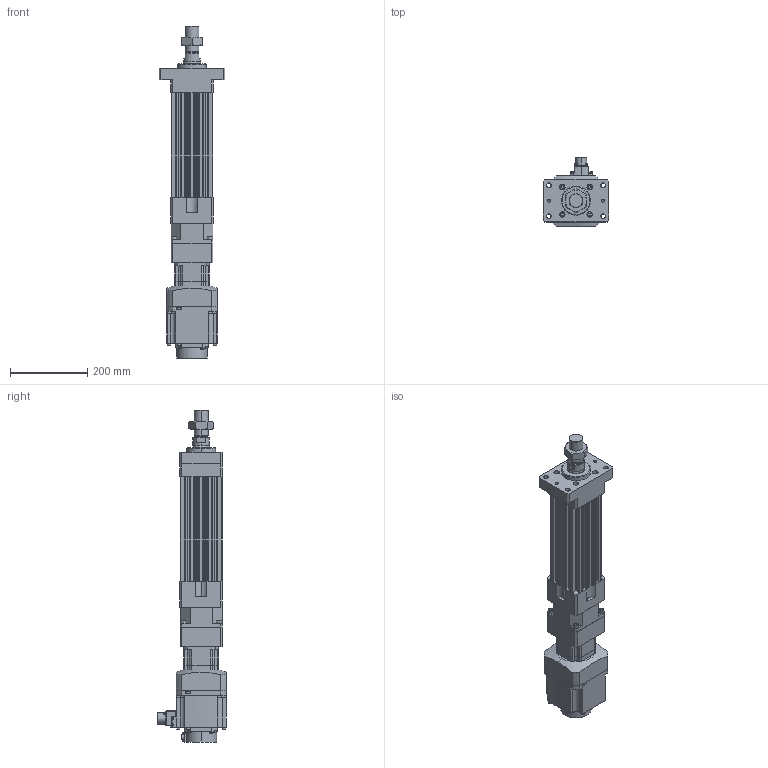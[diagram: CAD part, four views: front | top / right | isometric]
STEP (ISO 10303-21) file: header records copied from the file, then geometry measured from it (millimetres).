
FILE_DESCRIPTION (( 'STEP AP203' ), '1' );
FILE_NAME ('HES110NS(HS)-S100-W010G00-M-FM.STEP', '2023-01-27T07:05:51', ( 'tms' ), ( '' ), 'SwSTEP 2.0', 'SolidWorks 2013', '' );
FILE_SCHEMA (( 'CONFIG_CONTROL_DESIGN' ));
Length unit declared in the file: millimetre
Products named in the file (8): HG-SR102; M36X1.5P; HES110-S100-G090-FM; P0401301004; AB0901; HES110 ROD M ST100; HES110NS(HS)-S100-W010G00-M-FM; AB090-003[HG-SR102B]
Assembly tree (7 placements, depth 3):
  HES110NS(HS)-S100-W010G00-M-FM
    HES110-S100-G090-FM
    HES110 ROD M ST100
    M36X1.5P
    AB090-003[HG-SR102B]
      AB0901
      P0401301004
    HG-SR102
Bounding box: 170 x 177.49 x 858.5 mm (x, y, z)
Volume: 5749517 mm3; surface area: 720515 mm2
Topology: 4 solids, 15 shells, 1165 faces, 2950 edges, 1921 vertices
Faces by surface type: plane 558, cylinder 523, cone 72, bspline 8, torus 4
Entity records: 37081 total; most frequent: CARTESIAN_POINT 7224, DIRECTION 6367, ORIENTED_EDGE 5848, EDGE_CURVE 2934, AXIS2_PLACEMENT_3D 2335, VERTEX_POINT 1921, VECTOR 1697, LINE 1697
